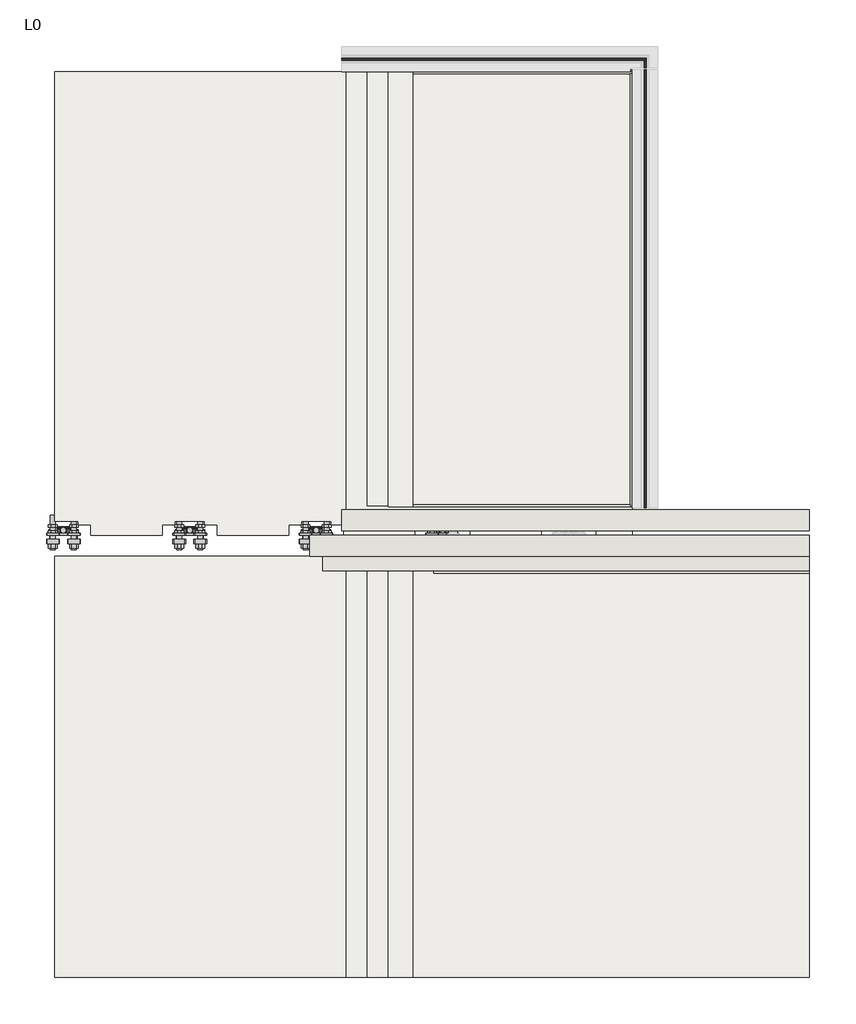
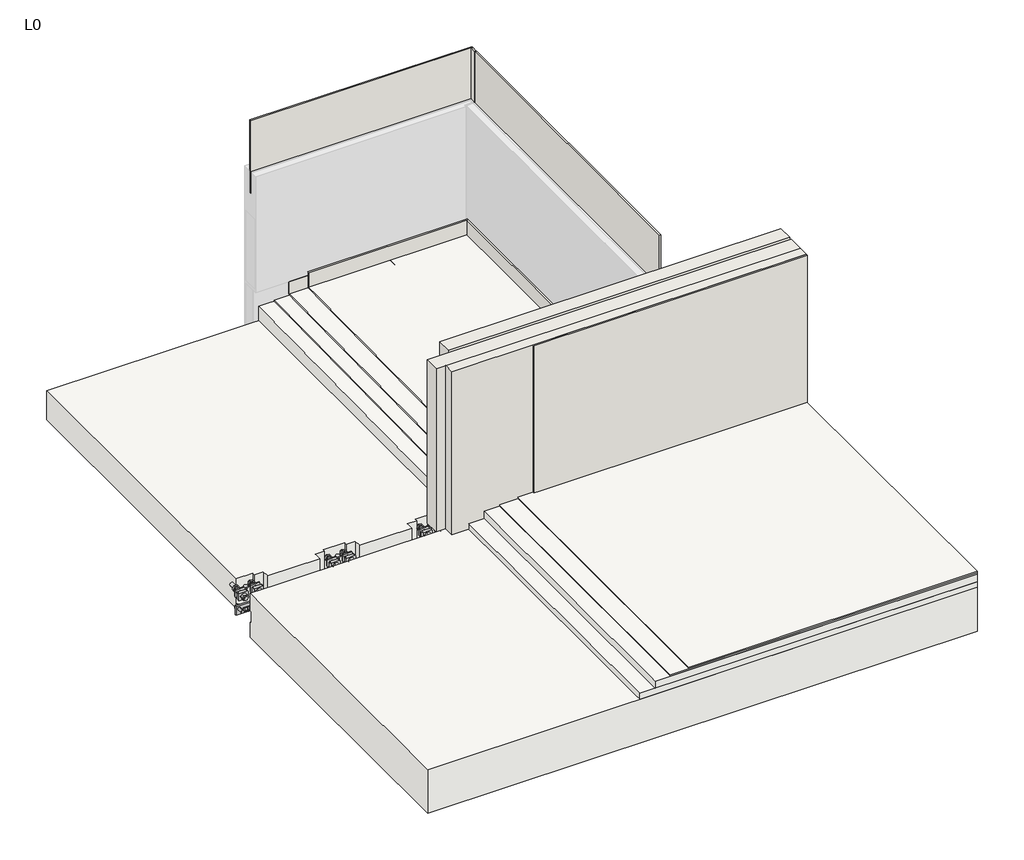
# One storey, part 1 of 2: 67 fasteners, 12 walls, 10 slabs.
"""IFC4 building model written with IfcOpenShell, lengths in millimetres."""

from ifc_helpers import new_model, si_unit, frame, origin, origin_with_axes, place, context, project, spatial, polyline, outline, extrude, faceted_brep, transform, mapped, element, save
from ifc_brep_helpers import plane_surface, spline_surface, advanced_brep
from components import fastener_40bc8d22, fastener_24ae0f83, fastener_6d48f5d1, fastener_fd3466ae, fastener_020a80a8, rec_m16_60_m16_60_dda11d1f, rec_m20_60_m20_60_f3bef540, rec_p5067_rec_p5067_4c9f34e2, rec_p5068_rec_p5068_d82b0db2

model = new_model("IFC4")

# Units and contexts
model_context = context("Model", 3, world=origin())
ifc_project = project(units=[si_unit("LENGTHUNIT", "METRE", prefix="MILLI")], contexts=[model_context])

# Site, building, storey
site = spatial("IfcSite", under=ifc_project)
building = spatial("IfcBuilding", under=site)
storey = spatial("IfcBuildingStorey", under=building, Name="L0", Elevation=0.0)

# Fasteners
placement = place(None, origin())
fastener_shape = fastener_40bc8d22(model_context)
element("IfcFastener", 1, ObjectType="REC_FBAIGCEQ : FBAIGCEQ", at=placement, inside=storey, context=model_context, shape_type="MappedRepresentation", body=[
    mapped(fastener_shape, transform((5185.6402663, 14794.5302953, -200.0), x_axis=(-1.0, 0.0, 0.0), y_axis=(0.0, 0.0, 1.0), z_axis=(0.0, 1.0, 0.0))),
])
element("IfcFastener", 2, ObjectType="REC_FBAIGCEQ : FBAIGCEQ", at=placement, inside=storey, context=model_context, shape_type="MappedRepresentation", body=[
    mapped(fastener_shape, transform((5785.6802663, 14794.5302953, -200.0), x_axis=(-1.0, 0.0, 0.0), y_axis=(0.0, 0.0, 1.0), z_axis=(0.0, 1.0, 0.0))),
])
element("IfcFastener", 3, ObjectType="REC_FBAIGCEQ : FBAIGCEQ", at=placement, inside=storey, context=model_context, shape_type="MappedRepresentation", body=[
    mapped(fastener_shape, transform((6385.7202663, 14794.5302953, -200.0), x_axis=(-1.0, 0.0, 0.0), y_axis=(0.0, 0.0, 1.0), z_axis=(0.0, 1.0, 0.0))),
])
element("IfcFastener", 4, ObjectType="REC_FBAIGCEQ : FBAIGCEQ", at=placement, inside=storey, context=model_context, shape_type="MappedRepresentation", body=[
    mapped(fastener_shape, transform((6985.7602663, 14794.5302953, -200.0), x_axis=(-1.0, 0.0, 0.0), y_axis=(0.0, 0.0, 1.0), z_axis=(0.0, 1.0, 0.0))),
])
fastener_2_shape = fastener_24ae0f83(model_context)
element("IfcFastener", 5, ObjectType="REC-T-M20 : T_M20", at=placement, inside=storey, context=model_context, shape_type="MappedRepresentation", body=[
    mapped(fastener_2_shape, transform((5240.6402663, 14804.5302953, -160.0), x_axis=(-1.0, 0.0, 0.0), y_axis=(0.0, 0.0, 1.0), z_axis=(0.0, 1.0, 0.0))),
])
element("IfcFastener", 6, ObjectType="REC-T-M20 : T_M20", at=placement, inside=storey, context=model_context, shape_type="MappedRepresentation", body=[
    mapped(fastener_2_shape, transform((5130.6402663, 14804.5302953, -160.0), x_axis=(-1.0, 0.0, 0.0), y_axis=(0.0, 0.0, 1.0), z_axis=(0.0, 1.0, 0.0))),
])
element("IfcFastener", 7, ObjectType="REC-T-M20 : T_M20", at=placement, inside=storey, context=model_context, shape_type="MappedRepresentation", body=[
    mapped(fastener_2_shape, transform((5840.6802663, 14804.5302953, -160.0), x_axis=(-1.0, 0.0, 0.0), y_axis=(0.0, 0.0, 1.0), z_axis=(0.0, 1.0, 0.0))),
])
element("IfcFastener", 8, ObjectType="REC-T-M20 : T_M20", at=placement, inside=storey, context=model_context, shape_type="MappedRepresentation", body=[
    mapped(fastener_2_shape, transform((5730.6802663, 14804.5302953, -160.0), x_axis=(-1.0, 0.0, 0.0), y_axis=(0.0, 0.0, 1.0), z_axis=(0.0, 1.0, 0.0))),
])
element("IfcFastener", 9, ObjectType="REC-T-M20 : T_M20", at=placement, inside=storey, context=model_context, shape_type="MappedRepresentation", body=[
    mapped(fastener_2_shape, transform((6440.7202663, 14804.5302953, -160.0), x_axis=(-1.0, 0.0, 0.0), y_axis=(0.0, 0.0, 1.0), z_axis=(0.0, 1.0, 0.0))),
])
element("IfcFastener", 10, ObjectType="REC-T-M20 : T_M20", at=placement, inside=storey, context=model_context, shape_type="MappedRepresentation", body=[
    mapped(fastener_2_shape, transform((6330.7202663, 14804.5302953, -160.0), x_axis=(-1.0, 0.0, 0.0), y_axis=(0.0, 0.0, 1.0), z_axis=(0.0, 1.0, 0.0))),
])
element("IfcFastener", 11, ObjectType="REC-T-M20 : T_M20", at=placement, inside=storey, context=model_context, shape_type="MappedRepresentation", body=[
    mapped(fastener_2_shape, transform((7040.7602663, 14804.5302953, -160.0), x_axis=(-1.0, 0.0, 0.0), y_axis=(0.0, 0.0, 1.0), z_axis=(0.0, 1.0, 0.0))),
])
element("IfcFastener", 12, ObjectType="REC-T-M20 : T_M20", at=placement, inside=storey, context=model_context, shape_type="MappedRepresentation", body=[
    mapped(fastener_2_shape, transform((6930.7602663, 14804.5302953, -160.0), x_axis=(-1.0, 0.0, 0.0), y_axis=(0.0, 0.0, 1.0), z_axis=(0.0, 1.0, 0.0))),
])
fastener_3_shape = fastener_6d48f5d1(model_context)
element("IfcFastener", 13, ObjectType="REC_TCA_M24 8.8 : REC_TCA_M24 8.8", at=placement, inside=storey, context=model_context, shape_type="MappedRepresentation", body=[
    mapped(fastener_3_shape, transform((5135.6402663, 14754.5302953, -50.0), x_axis=(1.0, 0.0, 0.0), y_axis=(0.0, 0.0, 1.0), z_axis=(0.0, -1.0, 0.0))),
])
element("IfcFastener", 14, ObjectType="REC_TCA_M24 8.8 : REC_TCA_M24 8.8", at=placement, inside=storey, context=model_context, shape_type="MappedRepresentation", body=[
    mapped(fastener_3_shape, transform((5235.6402663, 14754.5302953, -50.0), x_axis=(1.0, 0.0, 0.0), y_axis=(0.0, 0.0, 1.0), z_axis=(0.0, -1.0, 0.0))),
])
element("IfcFastener", 15, ObjectType="REC_TCA_M24 8.8 : REC_TCA_M24 8.8", at=placement, inside=storey, context=model_context, shape_type="MappedRepresentation", body=[
    mapped(fastener_3_shape, transform((5735.6802663, 14754.5302953, -50.0), x_axis=(1.0, 0.0, 0.0), y_axis=(0.0, 0.0, 1.0), z_axis=(0.0, -1.0, 0.0))),
])
element("IfcFastener", 16, ObjectType="REC_TCA_M24 8.8 : REC_TCA_M24 8.8", at=placement, inside=storey, context=model_context, shape_type="MappedRepresentation", body=[
    mapped(fastener_3_shape, transform((5835.6802663, 14754.5302953, -50.0), x_axis=(1.0, 0.0, 0.0), y_axis=(0.0, 0.0, 1.0), z_axis=(0.0, -1.0, 0.0))),
])
element("IfcFastener", 17, ObjectType="REC_TCA_M24 8.8 : REC_TCA_M24 8.8", at=placement, inside=storey, context=model_context, shape_type="MappedRepresentation", body=[
    mapped(fastener_3_shape, transform((6335.7202663, 14754.5302953, -50.0), x_axis=(1.0, 0.0, 0.0), y_axis=(0.0, 0.0, 1.0), z_axis=(0.0, -1.0, 0.0))),
])
element("IfcFastener", 18, ObjectType="REC_TCA_M24 8.8 : REC_TCA_M24 8.8", at=placement, inside=storey, context=model_context, shape_type="MappedRepresentation", body=[
    mapped(fastener_3_shape, transform((6435.7202663, 14754.5302953, -50.0), x_axis=(1.0, 0.0, 0.0), y_axis=(0.0, 0.0, 1.0), z_axis=(0.0, -1.0, 0.0))),
])
element("IfcFastener", 19, ObjectType="REC_TCA_M24 8.8 : REC_TCA_M24 8.8", at=placement, inside=storey, context=model_context, shape_type="MappedRepresentation", body=[
    mapped(fastener_3_shape, transform((6935.7602663, 14754.5302953, -50.0), x_axis=(1.0, 0.0, 0.0), y_axis=(0.0, 0.0, 1.0), z_axis=(0.0, -1.0, 0.0))),
])
fastener_4_shape = fastener_fd3466ae(model_context)
element("IfcFastener", 20, ObjectType="REC_TCA_M24 : REC_TCA_M24", at=placement, inside=storey, context=model_context, shape_type="MappedRepresentation", body=[
    mapped(fastener_4_shape, transform((5135.6402663, 14832.4986868, -50.0), x_axis=(1.0, 0.0, 0.0), y_axis=(0.0, 0.0, -1.0), z_axis=(0.0, 1.0, 0.0))),
])
element("IfcFastener", 21, ObjectType="REC_TCA_M24 : REC_TCA_M24", at=placement, inside=storey, context=model_context, shape_type="MappedRepresentation", body=[
    mapped(fastener_4_shape, transform((5135.6402663, 14802.5302953, -50.0), x_axis=(0.4999999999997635, 0.0, 0.8660254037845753), y_axis=(0.8660254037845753, 0.0, -0.4999999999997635), z_axis=(0.0, 1.0, 0.0))),
])
element("IfcFastener", 22, ObjectType="REC_TCA_M24 : REC_TCA_M24", at=placement, inside=storey, context=model_context, shape_type="MappedRepresentation", body=[
    mapped(fastener_4_shape, transform((5235.6402663, 14832.4986868, -50.0), x_axis=(1.0, 0.0, 0.0), y_axis=(0.0, 0.0, -1.0), z_axis=(0.0, 1.0, 0.0))),
])
element("IfcFastener", 23, ObjectType="REC_TCA_M24 : REC_TCA_M24", at=placement, inside=storey, context=model_context, shape_type="MappedRepresentation", body=[
    mapped(fastener_4_shape, transform((5235.6402663, 14802.5302953, -50.0), x_axis=(0.4999999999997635, 0.0, 0.8660254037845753), y_axis=(0.8660254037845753, 0.0, -0.4999999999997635), z_axis=(0.0, 1.0, 0.0))),
])
element("IfcFastener", 24, ObjectType="REC_TCA_M24 : REC_TCA_M24", at=placement, inside=storey, context=model_context, shape_type="MappedRepresentation", body=[
    mapped(fastener_4_shape, transform((5735.6802663, 14832.4986868, -50.0), x_axis=(1.0, 0.0, 0.0), y_axis=(0.0, 0.0, -1.0), z_axis=(0.0, 1.0, 0.0))),
])
element("IfcFastener", 25, ObjectType="REC_TCA_M24 : REC_TCA_M24", at=placement, inside=storey, context=model_context, shape_type="MappedRepresentation", body=[
    mapped(fastener_4_shape, transform((5735.6802663, 14802.5302953, -50.0), x_axis=(0.4999999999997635, 0.0, 0.8660254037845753), y_axis=(0.8660254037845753, 0.0, -0.4999999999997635), z_axis=(0.0, 1.0, 0.0))),
])
element("IfcFastener", 26, ObjectType="REC_TCA_M24 : REC_TCA_M24", at=placement, inside=storey, context=model_context, shape_type="MappedRepresentation", body=[
    mapped(fastener_4_shape, transform((5835.6802663, 14832.4986868, -50.0), x_axis=(1.0, 0.0, 0.0), y_axis=(0.0, 0.0, -1.0), z_axis=(0.0, 1.0, 0.0))),
])
element("IfcFastener", 27, ObjectType="REC_TCA_M24 : REC_TCA_M24", at=placement, inside=storey, context=model_context, shape_type="MappedRepresentation", body=[
    mapped(fastener_4_shape, transform((5835.6802663, 14802.5302953, -50.0), x_axis=(0.4999999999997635, 0.0, 0.8660254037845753), y_axis=(0.8660254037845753, 0.0, -0.4999999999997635), z_axis=(0.0, 1.0, 0.0))),
])
element("IfcFastener", 28, ObjectType="REC_TCA_M24 : REC_TCA_M24", at=placement, inside=storey, context=model_context, shape_type="MappedRepresentation", body=[
    mapped(fastener_4_shape, transform((6335.7202663, 14832.4986868, -50.0), x_axis=(1.0, 0.0, 0.0), y_axis=(0.0, 0.0, -1.0), z_axis=(0.0, 1.0, 0.0))),
])
element("IfcFastener", 29, ObjectType="REC_TCA_M24 : REC_TCA_M24", at=placement, inside=storey, context=model_context, shape_type="MappedRepresentation", body=[
    mapped(fastener_4_shape, transform((6335.7202663, 14802.5302953, -50.0), x_axis=(0.4999999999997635, 0.0, 0.8660254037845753), y_axis=(0.8660254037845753, 0.0, -0.4999999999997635), z_axis=(0.0, 1.0, 0.0))),
])
element("IfcFastener", 30, ObjectType="REC_TCA_M24 : REC_TCA_M24", at=placement, inside=storey, context=model_context, shape_type="MappedRepresentation", body=[
    mapped(fastener_4_shape, transform((6435.7202663, 14832.4986868, -50.0), x_axis=(1.0, 0.0, 0.0), y_axis=(0.0, 0.0, -1.0), z_axis=(0.0, 1.0, 0.0))),
])
element("IfcFastener", 31, ObjectType="REC_TCA_M24 : REC_TCA_M24", at=placement, inside=storey, context=model_context, shape_type="MappedRepresentation", body=[
    mapped(fastener_4_shape, transform((6435.7202663, 14802.5302953, -50.0), x_axis=(0.4999999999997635, 0.0, 0.8660254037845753), y_axis=(0.8660254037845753, 0.0, -0.4999999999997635), z_axis=(0.0, 1.0, 0.0))),
])
element("IfcFastener", 32, ObjectType="REC_TCA_M24 : REC_TCA_M24", at=placement, inside=storey, context=model_context, shape_type="MappedRepresentation", body=[
    mapped(fastener_4_shape, transform((6935.7602663, 14832.4986868, -50.0), x_axis=(1.0, 0.0, 0.0), y_axis=(0.0, 0.0, -1.0), z_axis=(0.0, 1.0, 0.0))),
])
element("IfcFastener", 33, ObjectType="REC_TCA_M24 : REC_TCA_M24", at=placement, inside=storey, context=model_context, shape_type="MappedRepresentation", body=[
    mapped(fastener_4_shape, transform((6935.7602663, 14802.5302953, -50.0), x_axis=(0.4999999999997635, 0.0, 0.8660254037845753), y_axis=(0.8660254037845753, 0.0, -0.4999999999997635), z_axis=(0.0, 1.0, 0.0))),
])
fastener_5_shape = fastener_020a80a8(model_context)
element("IfcFastener", 34, ObjectType="REC__VRM24165C88EQM : VRM24165C88EQM", at=placement, inside=storey, context=model_context, shape_type="MappedRepresentation", body=[
    mapped(fastener_5_shape, transform((5135.6402663, 14889.5302953, -50.0), x_axis=(1.0, 0.0, 0.0), y_axis=(0.0, 0.0, 1.0), z_axis=(0.0, -1.0, 0.0))),
])
element("IfcFastener", 35, ObjectType="REC__VRM24165C88EQM : VRM24165C88EQM", at=placement, inside=storey, context=model_context, shape_type="MappedRepresentation", body=[
    mapped(fastener_5_shape, transform((5235.6402663, 14889.5302953, -50.0), x_axis=(1.0, 0.0, 0.0), y_axis=(0.0, 0.0, 1.0), z_axis=(0.0, -1.0, 0.0))),
])
element("IfcFastener", 36, ObjectType="REC__VRM24165C88EQM : VRM24165C88EQM", at=placement, inside=storey, context=model_context, shape_type="MappedRepresentation", body=[
    mapped(fastener_5_shape, transform((5735.6802663, 14889.5302953, -50.0), x_axis=(1.0, 0.0, 0.0), y_axis=(0.0, 0.0, 1.0), z_axis=(0.0, -1.0, 0.0))),
])
element("IfcFastener", 37, ObjectType="REC__VRM24165C88EQM : VRM24165C88EQM", at=placement, inside=storey, context=model_context, shape_type="MappedRepresentation", body=[
    mapped(fastener_5_shape, transform((5835.6802663, 14889.5302953, -50.0), x_axis=(1.0, 0.0, 0.0), y_axis=(0.0, 0.0, 1.0), z_axis=(0.0, -1.0, 0.0))),
])
element("IfcFastener", 38, ObjectType="REC__VRM24165C88EQM : VRM24165C88EQM", at=placement, inside=storey, context=model_context, shape_type="MappedRepresentation", body=[
    mapped(fastener_5_shape, transform((6335.7202663, 14889.5302953, -50.0), x_axis=(1.0, 0.0, 0.0), y_axis=(0.0, 0.0, 1.0), z_axis=(0.0, -1.0, 0.0))),
])
element("IfcFastener", 39, ObjectType="REC__VRM24165C88EQM : VRM24165C88EQM", at=placement, inside=storey, context=model_context, shape_type="MappedRepresentation", body=[
    mapped(fastener_5_shape, transform((6435.7202663, 14889.5302953, -50.0), x_axis=(1.0, 0.0, 0.0), y_axis=(0.0, 0.0, 1.0), z_axis=(0.0, -1.0, 0.0))),
])
element("IfcFastener", 40, ObjectType="REC__VRM24165C88EQM : VRM24165C88EQM", at=placement, inside=storey, context=model_context, shape_type="MappedRepresentation", body=[
    mapped(fastener_5_shape, transform((6935.7602663, 14889.5302953, -50.0), x_axis=(1.0, 0.0, 0.0), y_axis=(0.0, 0.0, 1.0), z_axis=(0.0, -1.0, 0.0))),
])
rec_m16_60_m16_60_shape = rec_m16_60_m16_60_dda11d1f(model_context)
element("IfcFastener", 41, ObjectType="REC-M16-60 : M16-60", at=placement, inside=storey, context=model_context, shape_type="MappedRepresentation", body=[
    mapped(rec_m16_60_m16_60_shape, transform((5185.6402663, 14818.3552085, -47.9356889), x_axis=(0.0, -1.0, 0.0), y_axis=(1.0, 0.0, 0.0), z_axis=(0.0, 0.0, 1.0))),
])
element("IfcFastener", 42, ObjectType="REC-M16-60 : M16-60", at=placement, inside=storey, context=model_context, shape_type="MappedRepresentation", body=[
    mapped(rec_m16_60_m16_60_shape, transform((5785.6802663, 14818.3552085, -47.9356889), x_axis=(0.0, -1.0, 0.0), y_axis=(1.0, 0.0, 0.0), z_axis=(0.0, 0.0, 1.0))),
])
element("IfcFastener", 43, ObjectType="REC-M16-60 : M16-60", at=placement, inside=storey, context=model_context, shape_type="MappedRepresentation", body=[
    mapped(rec_m16_60_m16_60_shape, transform((6385.7202663, 14818.3552085, -47.9356889), x_axis=(0.0, -1.0, 0.0), y_axis=(1.0, 0.0, 0.0), z_axis=(0.0, 0.0, 1.0))),
])
element("IfcFastener", 44, ObjectType="REC-M16-60 : M16-60", at=placement, inside=storey, context=model_context, shape_type="MappedRepresentation", body=[
    mapped(rec_m16_60_m16_60_shape, transform((6985.7602663, 14818.3552085, -47.9356889), x_axis=(0.0, -1.0, 0.0), y_axis=(1.0, 0.0, 0.0), z_axis=(0.0, 0.0, 1.0))),
])
rec_m20_60_m20_60_shape = rec_m20_60_m20_60_f3bef540(model_context)
element("IfcFastener", 45, ObjectType="REC-M20-60 : M20-60", at=placement, inside=storey, context=model_context, shape_type="MappedRepresentation", body=[
    mapped(rec_m20_60_m20_60_shape, transform((5240.6402663, 14807.5302953, -160.0), x_axis=(0.0, 0.0, 1.0), y_axis=(1.0, 0.0, 0.0), z_axis=(0.0, 1.0, 0.0))),
])
element("IfcFastener", 46, ObjectType="REC-M20-60 : M20-60", at=placement, inside=storey, context=model_context, shape_type="MappedRepresentation", body=[
    mapped(rec_m20_60_m20_60_shape, transform((5130.6402663, 14807.5302953, -160.0), x_axis=(0.0, 0.0, 1.0), y_axis=(1.0, 0.0, 0.0), z_axis=(0.0, 1.0, 0.0))),
])
element("IfcFastener", 47, ObjectType="REC-M20-60 : M20-60", at=placement, inside=storey, context=model_context, shape_type="MappedRepresentation", body=[
    mapped(rec_m20_60_m20_60_shape, transform((5840.6802663, 14807.5302953, -160.0), x_axis=(0.0, 0.0, 1.0), y_axis=(1.0, 0.0, 0.0), z_axis=(0.0, 1.0, 0.0))),
])
element("IfcFastener", 48, ObjectType="REC-M20-60 : M20-60", at=placement, inside=storey, context=model_context, shape_type="MappedRepresentation", body=[
    mapped(rec_m20_60_m20_60_shape, transform((5730.6802663, 14807.5302953, -160.0), x_axis=(0.0, 0.0, 1.0), y_axis=(1.0, 0.0, 0.0), z_axis=(0.0, 1.0, 0.0))),
])
element("IfcFastener", 49, ObjectType="REC-M20-60 : M20-60", at=placement, inside=storey, context=model_context, shape_type="MappedRepresentation", body=[
    mapped(rec_m20_60_m20_60_shape, transform((6440.7202663, 14807.5302953, -160.0), x_axis=(0.0, 0.0, 1.0), y_axis=(1.0, 0.0, 0.0), z_axis=(0.0, 1.0, 0.0))),
])
element("IfcFastener", 50, ObjectType="REC-M20-60 : M20-60", at=placement, inside=storey, context=model_context, shape_type="MappedRepresentation", body=[
    mapped(rec_m20_60_m20_60_shape, transform((6330.7202663, 14807.5302953, -160.0), x_axis=(0.0, 0.0, 1.0), y_axis=(1.0, 0.0, 0.0), z_axis=(0.0, 1.0, 0.0))),
])
element("IfcFastener", 51, ObjectType="REC-M20-60 : M20-60", at=placement, inside=storey, context=model_context, shape_type="MappedRepresentation", body=[
    mapped(rec_m20_60_m20_60_shape, transform((7040.7602663, 14807.5302953, -160.0), x_axis=(0.0, 0.0, 1.0), y_axis=(1.0, 0.0, 0.0), z_axis=(0.0, 1.0, 0.0))),
])
element("IfcFastener", 52, ObjectType="REC-M20-60 : M20-60", at=placement, inside=storey, context=model_context, shape_type="MappedRepresentation", body=[
    mapped(rec_m20_60_m20_60_shape, transform((6930.7602663, 14807.5302953, -160.0), x_axis=(0.0, 0.0, 1.0), y_axis=(1.0, 0.0, 0.0), z_axis=(0.0, 1.0, 0.0))),
])
rec_p5067_rec_p5067_shape = rec_p5067_rec_p5067_4c9f34e2(model_context)
element("IfcFastener", 53, ObjectType="REC_P5067 : REC_P5067", at=placement, inside=storey, context=model_context, shape_type="MappedRepresentation", body=[
    mapped(rec_p5067_rec_p5067_shape, transform((5135.6402663, 14774.5302953, -50.0), x_axis=(-1.0, 0.0, 0.0), y_axis=(0.0, 0.0, -1.0), z_axis=(0.0, -1.0, 0.0))),
])
element("IfcFastener", 54, ObjectType="REC_P5067 : REC_P5067", at=placement, inside=storey, context=model_context, shape_type="MappedRepresentation", body=[
    mapped(rec_p5067_rec_p5067_shape, transform((5235.6402663, 14774.5302953, -50.0), x_axis=(-1.0, 0.0, 0.0), y_axis=(0.0, 0.0, -1.0), z_axis=(0.0, -1.0, 0.0))),
])
element("IfcFastener", 55, ObjectType="REC_P5067 : REC_P5067", at=placement, inside=storey, context=model_context, shape_type="MappedRepresentation", body=[
    mapped(rec_p5067_rec_p5067_shape, transform((5735.6802663, 14774.5302953, -50.0), x_axis=(-1.0, 0.0, 0.0), y_axis=(0.0, 0.0, -1.0), z_axis=(0.0, -1.0, 0.0))),
])
element("IfcFastener", 56, ObjectType="REC_P5067 : REC_P5067", at=placement, inside=storey, context=model_context, shape_type="MappedRepresentation", body=[
    mapped(rec_p5067_rec_p5067_shape, transform((5835.6802663, 14774.5302953, -50.0), x_axis=(-1.0, 0.0, 0.0), y_axis=(0.0, 0.0, -1.0), z_axis=(0.0, -1.0, 0.0))),
])
element("IfcFastener", 57, ObjectType="REC_P5067 : REC_P5067", at=placement, inside=storey, context=model_context, shape_type="MappedRepresentation", body=[
    mapped(rec_p5067_rec_p5067_shape, transform((6335.7202663, 14774.5302953, -50.0), x_axis=(-1.0, 0.0, 0.0), y_axis=(0.0, 0.0, -1.0), z_axis=(0.0, -1.0, 0.0))),
])
element("IfcFastener", 58, ObjectType="REC_P5067 : REC_P5067", at=placement, inside=storey, context=model_context, shape_type="MappedRepresentation", body=[
    mapped(rec_p5067_rec_p5067_shape, transform((6435.7202663, 14774.5302953, -50.0), x_axis=(-1.0, 0.0, 0.0), y_axis=(0.0, 0.0, -1.0), z_axis=(0.0, -1.0, 0.0))),
])
element("IfcFastener", 59, ObjectType="REC_P5067 : REC_P5067", at=placement, inside=storey, context=model_context, shape_type="MappedRepresentation", body=[
    mapped(rec_p5067_rec_p5067_shape, transform((6935.7602663, 14774.5302953, -50.0), x_axis=(-1.0, 0.0, 0.0), y_axis=(0.0, 0.0, -1.0), z_axis=(0.0, -1.0, 0.0))),
])
element("IfcFastener", 60, ObjectType="REC_P5067 : REC_P5067", at=placement, inside=storey, context=model_context, shape_type="MappedRepresentation", body=[
    mapped(rec_p5067_rec_p5067_shape, transform((7035.7602663, 14774.5302953, -50.0), x_axis=(-1.0, 0.0, 0.0), y_axis=(0.0, 0.0, -1.0), z_axis=(0.0, -1.0, 0.0))),
])
rec_p5068_rec_p5068_shape = rec_p5068_rec_p5068_d82b0db2(model_context)
element("IfcFastener", 61, ObjectType="REC_P5068 : REC_P5068", at=placement, inside=storey, context=model_context, shape_type="MappedRepresentation", body=[
    mapped(rec_p5068_rec_p5068_shape, transform((5135.6402663, 14794.5302953, -50.0), x_axis=(1.0, 0.0, 0.0), y_axis=(0.0, 0.0, -1.0), z_axis=(0.0, 1.0, 0.0))),
])
element("IfcFastener", 62, ObjectType="REC_P5068 : REC_P5068", at=placement, inside=storey, context=model_context, shape_type="MappedRepresentation", body=[
    mapped(rec_p5068_rec_p5068_shape, transform((5235.6402663, 14794.5302953, -50.0), x_axis=(1.0, 0.0, 0.0), y_axis=(0.0, 0.0, -1.0), z_axis=(0.0, 1.0, 0.0))),
])
element("IfcFastener", 63, ObjectType="REC_P5068 : REC_P5068", at=placement, inside=storey, context=model_context, shape_type="MappedRepresentation", body=[
    mapped(rec_p5068_rec_p5068_shape, transform((5735.6802663, 14794.5302953, -50.0), x_axis=(1.0, 0.0, 0.0), y_axis=(0.0, 0.0, -1.0), z_axis=(0.0, 1.0, 0.0))),
])
element("IfcFastener", 64, ObjectType="REC_P5068 : REC_P5068", at=placement, inside=storey, context=model_context, shape_type="MappedRepresentation", body=[
    mapped(rec_p5068_rec_p5068_shape, transform((5835.6802663, 14794.5302953, -50.0), x_axis=(1.0, 0.0, 0.0), y_axis=(0.0, 0.0, -1.0), z_axis=(0.0, 1.0, 0.0))),
])
element("IfcFastener", 65, ObjectType="REC_P5068 : REC_P5068", at=placement, inside=storey, context=model_context, shape_type="MappedRepresentation", body=[
    mapped(rec_p5068_rec_p5068_shape, transform((6335.7202663, 14794.5302953, -50.0), x_axis=(1.0, 0.0, 0.0), y_axis=(0.0, 0.0, -1.0), z_axis=(0.0, 1.0, 0.0))),
])
element("IfcFastener", 66, ObjectType="REC_P5068 : REC_P5068", at=placement, inside=storey, context=model_context, shape_type="MappedRepresentation", body=[
    mapped(rec_p5068_rec_p5068_shape, transform((6435.7202663, 14794.5302953, -50.0), x_axis=(1.0, 0.0, 0.0), y_axis=(0.0, 0.0, -1.0), z_axis=(0.0, 1.0, 0.0))),
])
element("IfcFastener", 67, ObjectType="REC_P5068 : REC_P5068", at=placement, inside=storey, context=model_context, shape_type="MappedRepresentation", body=[
    mapped(rec_p5068_rec_p5068_shape, transform((6935.7602663, 14794.5302953, -50.0), x_axis=(1.0, 0.0, 0.0), y_axis=(0.0, 0.0, -1.0), z_axis=(0.0, 1.0, 0.0))),
])

# Slabs
element("IfcSlab", 68, ObjectType="DPG_Pegamento cemento", at=placement, inside=storey, context=model_context, shape_type="AdvancedBrep", body=[
    advanced_brep(
    [(7887.7202663, 16994.5302953, 105.0001993), (7887.7202663, 16994.5302953, 115.0001993), (7887.7202663, 14929.5302953, 115.0001993), (7887.7202663, 14929.5302953, 105.0001993), (6727.7202663, 14929.5302953, 89.4), (6727.7202663, 14929.5302953, 84.4), (6727.7202663, 14929.5302953, 79.4), (6727.7202663, 16994.5302953, 115.0001993), (6727.7202663, 16994.5302953, 105.0001993)],
    [
        (0, 1),
        (1, 2),
        (2, 3),
        (3, 0),
        (2, 4),
        (4, 5),
        (5, 6),
        (6, 3),
        (4, 7),
        (7, 8),
        (8, 6),
        (7, 1),
        (0, 8),
    ],
    [
        plane_surface(frame((7887.7202663, 16994.5302953, 105.0001993), z_axis=(1.0, 0.0, 0.0), x_axis=(0.0, 0.0, 1.0))),
        plane_surface(frame((7887.7202663, 14929.5302953, 105.0001993), z_axis=(0.0, -1.0, 0.0), x_axis=(0.0, 0.0, 1.0))),
        plane_surface(frame((6727.7202663, 14929.5302953, 105.0001993), z_axis=(-1.0, 0.0, 0.0), x_axis=(0.0, 0.0, 1.0))),
        plane_surface(frame((6727.7202663, 16994.5302953, 105.0001993), z_axis=(0.0, 1.0, 0.0), x_axis=(0.0, 0.0, 1.0))),
        spline_surface(1, 1, [[(6727.7202663, 14929.5302953, 89.4), (6727.7202663, 16994.5302953, 115.0001993)], [(7887.7202663, 14929.5302953, 115.0001993), (7887.7202663, 16994.5302953, 115.0001993)]], [2, 2], [2, 2], [0.0, 1.0], [0.0, 1.0]),
        spline_surface(1, 1, [[(6727.7202663, 14929.5302953, 79.4), (7887.7202663, 14929.5302953, 105.0001993)], [(6727.7202663, 16994.5302953, 105.0001993), (7887.7202663, 16994.5302953, 105.0001993)]], [2, 2], [2, 2], [0.0, 1.0], [0.0, 1.0]),
    ],
    [
        (0, [[1, 2, 3, 4]]),
        (1, [[-3, 5, 6, 7, 8]]),
        (2, [[-7, -6, 9, 10, 11]]),
        (3, [[-10, 12, -1, 13]]),
        (4, [[-9, -5, -2, -12]]),
        (5, [[-13, -4, -8, -11]]),
    ],
),
])
element("IfcSlab", 69, ObjectType="DPG_Pegamento cemento", at=placement, inside=storey, context=model_context, shape_type="SweptSolid", body=[
    extrude(outline(polyline([(8727.7202663, 14624.5302953), (8727.7202663, 12694.5302953), (6727.7202663, 12694.5302953), (6727.7202663, 14624.5302953), (8727.7202663, 14624.5302953)])), frame((0.0, 0.0, 90.0), z_axis=(0.0, 0.0, 1.0), x_axis=(1.0, 0.0, 0.0)), (0.0, 0.0, 1.0), 10.0),
])
element("IfcSlab", 70, ObjectType="DPG_Lamina", at=placement, inside=storey, context=model_context, shape_type="AdvancedBrep", body=[
    advanced_brep(
    [(7887.7202663, 16994.5302953, 100.0001993), (7887.7202663, 16994.5302953, 105.0001993), (7887.7202663, 14934.5302953, 105.0001993), (7887.7202663, 14934.5302953, 100.0001993), (6627.7202663, 14934.5302953, 77.2692327), (6627.7202663, 14934.5302953, 72.2692327), (6627.7202663, 16994.5302953, 105.0001993), (6627.7202663, 16994.5302953, 100.0001993)],
    [
        (0, 1),
        (1, 2),
        (2, 3),
        (3, 0),
        (2, 4),
        (4, 5),
        (5, 3),
        (4, 6),
        (6, 7),
        (7, 5),
        (6, 1),
        (0, 7),
    ],
    [
        plane_surface(frame((7887.7202663, 16994.5302953, 100.0001993), z_axis=(1.0, 0.0, 0.0), x_axis=(0.0, 0.0, 1.0))),
        plane_surface(frame((7887.7202663, 14934.5302953, 100.0001993), z_axis=(0.0, -1.0, 0.0), x_axis=(0.0, 0.0, 1.0))),
        plane_surface(frame((6627.7202663, 14934.5302953, 100.0001993), z_axis=(-1.0, 0.0, 0.0), x_axis=(0.0, 0.0, 1.0))),
        plane_surface(frame((6627.7202663, 16994.5302953, 100.0001993), z_axis=(0.0, 1.0, 0.0), x_axis=(0.0, 0.0, 1.0))),
        spline_surface(1, 1, [[(6627.7202663, 14934.5302953, 77.2692327), (6627.7202663, 16994.5302953, 105.0001993)], [(7887.7202663, 14934.5302953, 105.0001993), (7887.7202663, 16994.5302953, 105.0001993)]], [2, 2], [2, 2], [0.0, 1.0], [0.0, 1.0]),
        spline_surface(1, 1, [[(6627.7202663, 14934.5302953, 72.2692327), (7887.7202663, 14934.5302953, 100.0001993)], [(6627.7202663, 16994.5302953, 100.0001993), (7887.7202663, 16994.5302953, 100.0001993)]], [2, 2], [2, 2], [0.0, 1.0], [0.0, 1.0]),
    ],
    [
        (0, [[1, 2, 3, 4]]),
        (1, [[-3, 5, 6, 7]]),
        (2, [[-6, 8, 9, 10]]),
        (3, [[-9, 11, -1, 12]]),
        (4, [[-8, -5, -2, -11]]),
        (5, [[-12, -4, -7, -10]]),
    ],
),
])
element("IfcSlab", 71, ObjectType="DPG_Aislamiento Suelo", at=placement, inside=storey, context=model_context, shape_type="SweptSolid", body=[
    extrude(outline(polyline([(8727.7202663, 14624.5302953), (8727.7202663, 12694.5302953), (6527.7202663, 12694.5302953), (6527.7202663, 14624.5302953), (8727.7202663, 14624.5302953)])), origin_with_axes(), (0.0, 0.0, 1.0), 40.0),
])
element("IfcSlab", 72, ObjectType="DPG_Balcon_Prefabricado", at=placement, inside=storey, context=model_context, shape_type="SweptSolid", body=[
    extrude(outline(polyline([(7887.7202663, 16994.5302953), (7887.7202663, 14794.5302953), (7716.5737202, 14794.5302953), (7716.5737202, 14844.5302953), (7656.5737202, 14844.5302953), (7656.5737202, 14859.5302953), (7515.0156566, 14859.5302953), (7515.0156566, 14844.5302953), (7455.0156566, 14844.5302953), (7455.0156566, 14794.5302953), (7116.5337202, 14794.5302953), (7116.5337202, 14844.5302953), (7056.5337202, 14844.5302953), (7056.5337202, 14859.5302953), (6914.9756566, 14859.5302953), (6914.9756566, 14844.5302953), (6854.9756566, 14844.5302953), (6854.9756566, 14794.5302953), (6516.4937202, 14794.5302953), (6516.4937202, 14844.5302953), (6456.4937202, 14844.5302953), (6456.4937202, 14859.5302953), (6314.9356566, 14859.5302953), (6314.9356566, 14844.5302953), (6254.9356566, 14844.5302953), (6254.9356566, 14794.5302953), (5916.4537202, 14794.5302953), (5916.4537202, 14844.5302953), (5856.4537202, 14844.5302953), (5856.4537202, 14859.5302953), (5714.8956566, 14859.5302953), (5714.8956566, 14844.5302953), (5654.8956566, 14844.5302953), (5654.8956566, 14794.5302953), (5316.4137202, 14794.5302953), (5316.4137202, 14844.5302953), (5256.4137202, 14844.5302953), (5256.4137202, 14859.5302953), (5145.6402663, 14859.5302953), (5145.6402663, 16994.5302953), (7887.7202663, 16994.5302953)])), frame((0.0, 0.0, -200.0), z_axis=(0.0, 0.0, 1.0), x_axis=(1.0, 0.0, 0.0)), (0.0, 0.0, 1.0), 200.0),
])
element("IfcSlab", 73, ObjectType="DPG_Ceramica", at=placement, inside=storey, context=model_context, shape_type="AdvancedBrep", body=[
    advanced_brep(
    [(7887.7202663, 16994.5302953, 115.0001993), (7887.7202663, 16994.5302953, 125.0001993), (7887.7202663, 14934.5302953, 125.0001993), (7887.7202663, 14934.5302953, 115.0001993), (6847.7202663, 14934.5302953, 102.1), (6847.7202663, 14934.5302953, 92.1), (6847.7202663, 16994.5302953, 115.0001993), (6847.7202663, 16994.5302953, 125.0001993)],
    [
        (0, 1),
        (1, 2),
        (2, 3),
        (3, 0),
        (2, 4),
        (4, 5),
        (5, 3),
        (6, 7),
        (7, 1),
        (0, 6),
        (7, 4),
        (5, 6),
    ],
    [
        plane_surface(frame((7887.7202663, 16994.5302953, 115.0001993), z_axis=(1.0, 0.0, 0.0), x_axis=(0.0, 0.0, 1.0))),
        plane_surface(frame((7887.7202663, 14934.5302953, 115.0001993), z_axis=(0.0, -1.0, 0.0), x_axis=(0.0, 0.0, 1.0))),
        plane_surface(frame((6847.7202663, 16994.5302953, 115.0001993), z_axis=(0.0, 1.0, 0.0), x_axis=(0.0, 0.0, 1.0))),
        spline_surface(1, 1, [[(7887.7202663, 16994.5302953, 125.0001993), (7887.7202663, 14934.5302953, 125.0001993)], [(6847.7202663, 16994.5302953, 125.0001993), (6847.7202663, 14934.5302953, 102.1)]], [2, 2], [2, 2], [0.0, 1.0], [0.0, 1.0]),
        spline_surface(1, 1, [[(7887.7202663, 16994.5302953, 115.0001993), (6847.7202663, 16994.5302953, 115.0001993)], [(7887.7202663, 14934.5302953, 115.0001993), (6847.7202663, 14934.5302953, 92.1)]], [2, 2], [2, 2], [0.0, 1.0], [0.0, 1.0]),
        plane_surface(frame((6847.7202663, 14934.5302953, 115.0001993), z_axis=(-1.0, 0.0, 0.0), x_axis=(0.0, 0.0, 1.0))),
    ],
    [
        (0, [[1, 2, 3, 4]]),
        (1, [[-3, 5, 6, 7]]),
        (2, [[8, 9, -1, 10]]),
        (3, [[-2, -9, 11, -5]]),
        (4, [[-7, 12, -10, -4]]),
        (5, [[-6, -11, -8, -12]]),
    ],
),
])
element("IfcSlab", 74, ObjectType="DPG_Ceramica", at=placement, inside=storey, context=model_context, shape_type="SweptSolid", body=[
    extrude(outline(polyline([(8727.7202663, 14624.5302953), (8727.7202663, 12694.5302953), (6847.7202663, 12694.5302953), (6847.7202663, 14624.5302953), (8727.7202663, 14624.5302953)])), frame((0.0, 0.0, 100.0), z_axis=(0.0, 0.0, 1.0), x_axis=(1.0, 0.0, 0.0)), (0.0, 0.0, 1.0), 10.0),
])
element("IfcSlab", 75, ObjectType="DPG_Losa Principal Obra", at=placement, inside=storey, context=model_context, shape_type="Brep", body=[
    faceted_brep([(8727.7202663, 14694.5302953, -300.0), (8727.7202663, 12694.5302953, -300.0), (5145.6402663, 12694.5302953, -300.0), (5145.6402663, 14694.5302953, -300.0), (8727.7202663, 12694.5302953, 0.0), (8727.7202663, 14694.5302953, 0.0), (5316.424876, 14694.5302953, 0.0), (5145.6402663, 14694.5302953, 0.0), (5145.6402663, 12694.5302953, 0.0), (5145.6402663, 14694.5302953, -120.0), (5145.6402663, 14684.5302953, -120.0), (5145.6402663, 14684.5302953, -200.0), (5145.6402663, 14694.5302953, -200.0), (5280.6402663, 14694.5302953, -200.0), (5290.6402663, 14694.5302953, -190.0), (5290.6402663, 14694.5302953, -130.0), (5280.6402663, 14694.5302953, -120.0), (5280.6402663, 14684.5302953, -120.0), (5290.6402663, 14684.5302953, -130.0), (5290.6402663, 14684.5302953, -190.0), (5280.6402663, 14684.5302953, -200.0)], [[[0, 1, 2, 3]], [[4, 5, 6, 7, 8]], [[1, 0, 5, 4]], [[2, 1, 4, 8]], [[3, 2, 8, 7, 9, 10, 11, 12]], [[0, 3, 12, 13, 14, 15, 16, 9, 7, 6, 5]], [[17, 18, 19, 20, 11, 10]], [[20, 13, 12, 11]], [[16, 17, 10, 9]], [[13, 20, 19, 14]], [[19, 18, 15, 14]], [[18, 17, 16, 15]]]),
])
element("IfcSlab", 76, ObjectType="DPG_Recrecido", at=placement, inside=storey, context=model_context, shape_type="AdvancedBrep", body=[
    advanced_brep(
    [(7887.7202663, 16994.5302953, 0.0), (7887.7202663, 14914.5302953, 0.0), (6527.7202663, 14914.5302953, 0.0), (6527.7202663, 16994.5302953, 0.0), (7887.7202663, 16994.5302953, 100.0), (7887.7202663, 14914.5302953, 100.0), (6527.7202663, 14914.5302953, 69.8), (6527.7202663, 16994.5302953, 100.0)],
    [
        (0, 1),
        (1, 2),
        (2, 3),
        (3, 0),
        (0, 4),
        (4, 5),
        (5, 1),
        (5, 6),
        (6, 2),
        (6, 7),
        (7, 3),
        (7, 4),
    ],
    [
        plane_surface(frame((7887.7202663, 15864.5302953, 0.0), z_axis=(0.0, 0.0, -1.0), x_axis=(0.0, -1.0, 0.0))),
        plane_surface(frame((7887.7202663, 16994.5302953, 0.0), z_axis=(1.0, 0.0, 0.0), x_axis=(0.0, 0.0, 1.0))),
        plane_surface(frame((7887.7202663, 14914.5302953, 0.0), z_axis=(0.0, -1.0, 0.0), x_axis=(0.0, 0.0, 1.0))),
        plane_surface(frame((6527.7202663, 14914.5302953, 0.0), z_axis=(-1.0, 0.0, 0.0), x_axis=(0.0, 0.0, 1.0))),
        plane_surface(frame((6527.7202663, 16994.5302953, 0.0), z_axis=(0.0, 1.0, 0.0), x_axis=(0.0, 0.0, 1.0))),
        spline_surface(1, 1, [[(6527.7202663, 14914.5302953, 69.8), (6527.7202663, 16994.5302953, 100.0)], [(7887.7202663, 14914.5302953, 100.0), (7887.7202663, 16994.5302953, 100.0)]], [2, 2], [2, 2], [0.0, 1.0], [0.0, 1.0]),
    ],
    [
        (0, [[1, 2, 3, 4]]),
        (1, [[-1, 5, 6, 7]]),
        (2, [[-2, -7, 8, 9]]),
        (3, [[-3, -9, 10, 11]]),
        (4, [[-4, -11, 12, -5]]),
        (5, [[-10, -8, -6, -12]]),
    ],
),
])
element("IfcSlab", 77, ObjectType="DPG_Recrecido INT", at=placement, inside=storey, context=model_context, shape_type="SweptSolid", body=[
    extrude(outline(polyline([(8727.7202663, 14624.5302953), (8727.7202663, 12694.5302953), (6627.7202663, 12694.5302953), (6627.7202663, 14624.5302953), (8727.7202663, 14624.5302953)])), frame((0.0, 0.0, 40.0), z_axis=(0.0, 0.0, 1.0), x_axis=(1.0, 0.0, 0.0)), (0.0, 0.0, 1.0), 50.0),
])

# Walls
element("IfcWall", 78, ObjectType="DPG_Panel_Pref", at=placement, inside=storey, context=model_context, shape_type="SweptSolid", body=[
    extrude(outline(polyline([(8727.7202663, 14814.5302953), (6507.7202663, 14814.5302953), (6507.7202663, 14914.5302953), (8727.7202663, 14914.5302953), (8727.7202663, 14814.5302953)])), frame((0.0, 0.0, 20.0), z_axis=(0.0, 0.0, 1.0), x_axis=(1.0, 0.0, 0.0)), (0.0, 0.0, 1.0), 1105.0),
])
element("IfcWall", 79, ObjectType="DPG_Pegamento cementoso", at=placement, inside=storey, context=model_context, shape_type="Brep", body=[
    faceted_brep([(6727.7202663, 16994.5302953, 108.7326719), (7887.7202663, 16994.5302953, 108.7326719), (7897.7202663, 16994.5302953, 108.7326719), (7897.7202663, 16994.5302953, 200.0), (7887.7202663, 16994.5302953, 200.0), (6727.7202663, 16994.5302953, 200.0), (6727.7202663, 17004.5302953, 108.7326719), (6727.7202663, 17004.5302953, 200.0), (7897.7202663, 17004.5302953, 200.0), (7897.7202663, 17004.5302953, 108.7326719)], [[[0, 1, 2, 3, 4, 5]], [[6, 7, 8, 9]], [[2, 1, 0, 6, 9]], [[5, 4, 3, 8, 7]], [[0, 5, 7, 6]], [[2, 9, 8, 3]]]),
])
element("IfcWall", 80, ObjectType="DPG_Rodapie", at=placement, inside=storey, context=model_context, shape_type="Brep", body=[
    faceted_brep([(6847.7202663, 16984.5302953, 125.654483), (7877.7202663, 16984.5302953, 125.654483), (7887.7202663, 16984.5302953, 125.654483), (7887.7202663, 16984.5302953, 225.654483), (7877.7202663, 16984.5302953, 225.654483), (6847.7202663, 16984.5302953, 225.654483), (6847.7202663, 16994.5302953, 125.654483), (6847.7202663, 16994.5302953, 225.654483), (7887.7202663, 16994.5302953, 225.654483), (7887.7202663, 16994.5302953, 125.654483)], [[[0, 1, 2, 3, 4, 5]], [[6, 7, 8, 9]], [[3, 2, 9, 8]], [[2, 1, 0, 6, 9]], [[5, 4, 3, 8, 7]], [[0, 5, 7, 6]]]),
])
element("IfcWall", 81, ObjectType="DPG_Pegamento cementoso", at=placement, inside=storey, context=model_context, shape_type="Brep", body=[
    faceted_brep([(7887.7202663, 16994.5302953, 108.7326719), (7887.7202663, 14929.5302953, 108.7326719), (7887.7202663, 14929.5302953, 200.0), (7887.7202663, 16994.5302953, 200.0), (7897.7202663, 16994.5302953, 108.7326719), (7897.7202663, 16994.5302953, 200.0), (7897.7202663, 14929.5302953, 200.0), (7897.7202663, 14929.5302953, 110.2208907), (7897.7202663, 14929.5302953, 108.7326719)], [[[0, 1, 2, 3]], [[4, 5, 6, 7, 8]], [[1, 0, 4, 8]], [[3, 2, 6, 5]], [[0, 3, 5, 4]], [[1, 8, 7, 6, 2]]]),
])
element("IfcWall", 82, ObjectType="DPG_Rodapie", at=placement, inside=storey, context=model_context, shape_type="Brep", body=[
    faceted_brep([(7877.7202663, 16984.5302953, 125.654483), (7877.7202663, 14929.5302953, 125.654483), (7877.7202663, 14929.5302953, 225.654483), (7877.7202663, 16984.5302953, 225.654483), (7887.7202663, 16984.5302953, 125.654483), (7887.7202663, 16984.5302953, 225.654483), (7887.7202663, 14929.5302953, 225.654483), (7887.7202663, 14929.5302953, 200.0), (7887.7202663, 14929.5302953, 125.654483)], [[[0, 1, 2, 3]], [[4, 5, 6, 7, 8]], [[1, 0, 4, 8]], [[3, 2, 6, 5]], [[0, 3, 5, 4]], [[1, 8, 7, 6, 2]]]),
])
element("IfcWall", 83, ObjectType="DPG_Rodapie", at=placement, inside=storey, context=model_context, shape_type="Brep", body=[
    faceted_brep([(7877.7202663, 14939.5302953, 124.7800051), (6847.7202663, 14939.5302953, 102.1), (6847.7202663, 14939.5302953, 225.654483), (7877.7202663, 14939.5302953, 225.654483), (7877.7202663, 14929.5302953, 124.7800051), (7877.7202663, 14929.5302953, 125.654483), (7877.7202663, 14929.5302953, 225.654483), (6847.7202663, 14929.5302953, 225.654483), (6847.7202663, 14929.5302953, 102.1)], [[[0, 1, 2, 3]], [[4, 5, 6, 7, 8]], [[1, 0, 4, 8]], [[2, 1, 8, 7]], [[3, 2, 7, 6]], [[0, 3, 6, 5, 4]]]),
])
element("IfcWall", 84, ObjectType="DPG_Aislamiento", at=placement, inside=storey, context=model_context, shape_type="Brep", body=[
    faceted_brep([(6355.2202663, 14694.5302953, 0.0), (7887.7202663, 14694.5302953, 0.0), (8727.7202663, 14694.5302953, 0.0), (8727.7202663, 14694.5302953, 1125.0), (6355.2202663, 14694.5302953, 1125.0), (6355.2202663, 14794.5302953, 0.0), (6355.2202663, 14794.5302953, 1125.0), (8727.7202663, 14794.5302953, 1125.0), (8727.7202663, 14794.5302953, 0.0), (7887.7202663, 14794.5302953, 0.0), (7695.8002663, 14794.5302953, 0.0), (7663.3002663, 14794.5302953, 0.0), (7608.3002663, 14794.5302953, 0.0), (7563.3002663, 14794.5302953, 0.0), (7508.3002663, 14794.5302953, 0.0), (7475.8002663, 14794.5302953, 0.0), (7095.7602663, 14794.5302953, 0.0), (7063.2602663, 14794.5302953, 0.0), (7008.2602663, 14794.5302953, 0.0), (6963.2602663, 14794.5302953, 0.0), (6908.2602663, 14794.5302953, 0.0), (6875.7602663, 14794.5302953, 0.0), (6495.7202663, 14794.5302953, 0.0), (6463.2202663, 14794.5302953, 0.0), (6408.2202663, 14794.5302953, 0.0), (6363.2202663, 14794.5302953, 0.0)], [[[0, 1, 2, 3, 4]], [[5, 6, 7, 8, 9, 10, 11, 12, 13, 14, 15, 16, 17, 18, 19, 20, 21, 22, 23, 24, 25]], [[2, 1, 0, 5, 25, 24, 23, 22, 21, 20, 19, 18, 17, 16, 15, 14, 13, 12, 11, 10, 9, 8]], [[3, 2, 8, 7]], [[4, 3, 7, 6]], [[0, 4, 6, 5]]]),
])
element("IfcWall", 85, ObjectType="DPG_Enlucido", at=placement, inside=storey, context=model_context, shape_type="SweptSolid", body=[
    extrude(outline(polyline([(8727.7202663, 14614.5302953), (6945.2237552, 14614.5302953), (6945.2237552, 14624.5302953), (8727.7202663, 14624.5302953), (8727.7202663, 14614.5302953)])), frame((0.0, 0.0, 110.0), z_axis=(0.0, 0.0, 1.0), x_axis=(1.0, 0.0, 0.0)), (0.0, 0.0, 1.0), 1015.0),
])
element("IfcWall", 86, ObjectType="DPG_Ladrillo", at=placement, inside=storey, context=model_context, shape_type="SweptSolid", body=[
    extrude(outline(polyline([(8727.7202663, 14624.5302953), (6417.7202663, 14624.5302953), (6417.7202663, 14694.5302953), (8727.7202663, 14694.5302953), (8727.7202663, 14624.5302953)])), origin_with_axes(), (0.0, 0.0, 1.0), 1125.0),
])
element("IfcWall", 87, ObjectType="DPG_Vidrio", at=placement, inside=storey, context=model_context, shape_type="Brep", body=[
    faceted_brep([(6507.7202663, 17049.5302953, 850.0), (7942.7202663, 17049.5302953, 850.0), (7952.7202663, 17049.5302953, 850.0), (7952.7202663, 17049.5302953, 1350.0), (7942.7202663, 17049.5302953, 1350.0), (6507.7202663, 17049.5302953, 1350.0), (6507.7202663, 17059.5302953, 850.0), (6507.7202663, 17059.5302953, 1350.0), (7952.7202663, 17059.5302953, 1350.0), (7952.7202663, 17059.5302953, 850.0)], [[[0, 1, 2, 3, 4, 5]], [[6, 7, 8, 9]], [[2, 1, 0, 6, 9]], [[5, 4, 3, 8, 7]], [[0, 5, 7, 6]], [[3, 2, 9, 8]]]),
])
element("IfcWall", 88, ObjectType="DPG_Vidrio", at=placement, inside=storey, context=model_context, shape_type="SweptSolid", body=[
    extrude(outline(polyline([(7952.7202663, 17049.5302953), (7952.7202663, 17014.5302953), (7942.7202663, 17014.5302953), (7942.7202663, 17049.5302953), (7952.7202663, 17049.5302953)])), frame((0.0, 0.0, 850.0), z_axis=(0.0, 0.0, 1.0), x_axis=(1.0, 0.0, 0.0)), (0.0, 0.0, 1.0), 500.0),
])
element("IfcWall", 89, ObjectType="DPG_Vidrio", at=placement, inside=storey, context=model_context, shape_type="SweptSolid", body=[
    extrude(outline(polyline([(7942.7202663, 14924.5302953), (7942.7202663, 17004.5302953), (7952.7202663, 17004.5302953), (7952.7202663, 14924.5302953), (7942.7202663, 14924.5302953)])), frame((0.0, 0.0, 850.0), z_axis=(0.0, 0.0, 1.0), x_axis=(1.0, 0.0, 0.0)), (0.0, 0.0, 1.0), 500.0),
])

save(model, "model.ifc")
